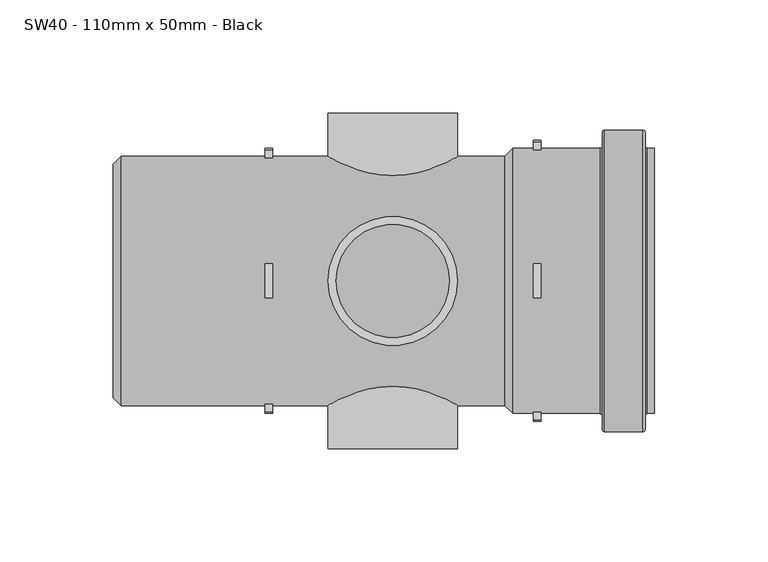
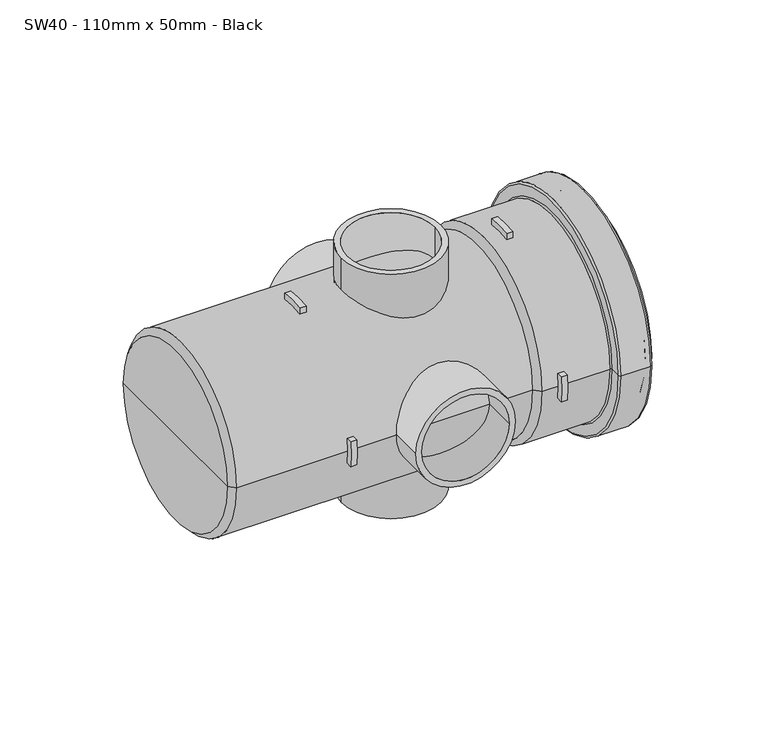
"""IFC4 building model written with IfcOpenShell, lengths in millimetres: pipe fitting geometry, MarleyPlumbingAndDrainage_PipeFitting_BossPipe_SW40 : SW40 - 110mm x 50mm - Black."""

from ifc_helpers import new_model, si_unit, point, frame, frame_2d, origin, origin_2d, place, context, project, spatial, polyline, circle_curve, ellipse_curve, trimmed, segment, composite_curve, outline, extrude, source, transform, mapped, element, save
from ifc_brep_helpers import plane_surface, cylinder_surface, revolved_surface, advanced_brep


def sw40_110mm_x_50mm_black_f85930d2(model_context):
    return source(origin(), model_context, "Body", "SolidModel", [
        extrude(outline(composite_curve([segment(polyline([(-7.5, 54.4862368), (-7.5, 58.0172388)]), True, "CONTINUOUS"), segment(trimmed(circle_curve(origin_2d(), 58.5), [point((-7.5, 58.0172388))], [point((7.5, 58.0172388))], False, "CARTESIAN"), True, "CONTINUOUS"), segment(polyline([(7.5, 58.0172388), (7.5, 54.4862368)]), True, "CONTINUOUS"), segment(trimmed(circle_curve(origin_2d(), 55.0), [point((7.5, 54.4862368))], [point((-7.5, 54.4862368))], True, "CARTESIAN"), True, "CONTINUOUS")], self_intersect=False)), frame((-54.0667881, 0.0, 0.0), z_axis=(1.0, 0.0, 0.0), x_axis=(0.0, 1.0, 0.0)), (0.0, 0.0, 1.0), 3.5),
        extrude(outline(composite_curve([segment(polyline([(54.4862368, 7.5), (58.0172388, 7.5)]), True, "CONTINUOUS"), segment(trimmed(circle_curve(origin_2d(), 58.5), [point((58.0172388, 7.5))], [point((58.0172388, -7.5))], False, "CARTESIAN"), True, "CONTINUOUS"), segment(polyline([(58.0172388, -7.5), (54.4862368, -7.5)]), True, "CONTINUOUS"), segment(trimmed(circle_curve(origin_2d(), 55.0), [point((54.4862368, -7.5))], [point((54.4862368, 7.5))], True, "CARTESIAN"), True, "CONTINUOUS")], self_intersect=False)), frame((-54.0667881, 0.0, 0.0), z_axis=(1.0, 0.0, 0.0), x_axis=(0.0, 1.0, 0.0)), (0.0, 0.0, 1.0), 3.5),
        extrude(outline(composite_curve([segment(polyline([(-58.0172388, 7.5), (-54.4862368, 7.5)]), True, "CONTINUOUS"), segment(trimmed(circle_curve(origin_2d(), 55.0), [point((-54.4862368, 7.5))], [point((-54.4862368, -7.5))], True, "CARTESIAN"), True, "CONTINUOUS"), segment(polyline([(-54.4862368, -7.5), (-58.0172388, -7.5)]), True, "CONTINUOUS"), segment(trimmed(circle_curve(origin_2d(), 58.5), [point((-58.0172388, -7.5))], [point((-58.0172388, 7.5))], False, "CARTESIAN"), True, "CONTINUOUS")], self_intersect=False)), frame((-54.0667881, 0.0, 0.0), z_axis=(1.0, 0.0, 0.0), x_axis=(0.0, 1.0, 0.0)), (0.0, 0.0, 1.0), 3.5),
        extrude(outline(composite_curve([segment(polyline([(-7.5, -58.0172388), (-7.5, -54.4862368)]), True, "CONTINUOUS"), segment(trimmed(circle_curve(origin_2d(), 55.0), [point((-7.5, -54.4862368))], [point((7.5, -54.4862368))], True, "CARTESIAN"), True, "CONTINUOUS"), segment(polyline([(7.5, -54.4862368), (7.5, -58.0172388)]), True, "CONTINUOUS"), segment(trimmed(circle_curve(origin_2d(), 58.5), [point((7.5, -58.0172388))], [point((-7.5, -58.0172388))], False, "CARTESIAN"), True, "CONTINUOUS")], self_intersect=False)), frame((-54.0667881, 0.0, 0.0), z_axis=(1.0, 0.0, 0.0), x_axis=(0.0, 1.0, 0.0)), (0.0, 0.0, 1.0), 3.5),
        extrude(outline(composite_curve([segment(polyline([(-58.0172388, -7.5), (-61.5446992, -7.5)]), True, "CONTINUOUS"), segment(trimmed(circle_curve(origin_2d(), 62.0), [point((-61.5446992, -7.5))], [point((-61.5446992, 7.5))], False, "CARTESIAN"), True, "CONTINUOUS"), segment(polyline([(-61.5446992, 7.5), (-58.0172388, 7.5)]), True, "CONTINUOUS"), segment(trimmed(circle_curve(origin_2d(), 58.5), [point((-58.0172388, 7.5))], [point((-58.0172388, -7.5))], True, "CARTESIAN"), True, "CONTINUOUS")], self_intersect=False)), frame((64.4332119, 0.0, 0.0), z_axis=(1.0, 0.0, 0.0), x_axis=(0.0, 1.0, 0.0)), (0.0, 0.0, 1.0), 3.5),
        extrude(outline(composite_curve([segment(trimmed(circle_curve(origin_2d(), 58.5), [point((7.5, 58.0172388))], [point((-7.5, 58.0172388))], True, "CARTESIAN"), True, "CONTINUOUS"), segment(polyline([(-7.5, 58.0172388), (-7.5, 61.5446992)]), True, "CONTINUOUS"), segment(trimmed(circle_curve(origin_2d(), 62.0), [point((-7.5, 61.5446992))], [point((7.5, 61.5446992))], False, "CARTESIAN"), True, "CONTINUOUS"), segment(polyline([(7.5, 61.5446992), (7.5, 58.0172388)]), True, "CONTINUOUS")], self_intersect=False)), frame((64.4332119, 0.0, 0.0), z_axis=(1.0, 0.0, 0.0), x_axis=(0.0, 1.0, 0.0)), (0.0, 0.0, 1.0), 3.5),
        extrude(outline(composite_curve([segment(polyline([(58.0172388, 7.5), (61.5446992, 7.5)]), True, "CONTINUOUS"), segment(trimmed(circle_curve(origin_2d(), 62.0), [point((61.5446992, 7.5))], [point((61.5446992, -7.5))], False, "CARTESIAN"), True, "CONTINUOUS"), segment(polyline([(61.5446992, -7.5), (58.0172388, -7.5)]), True, "CONTINUOUS"), segment(trimmed(circle_curve(origin_2d(), 58.5), [point((58.0172388, -7.5))], [point((58.0172388, 7.5))], True, "CARTESIAN"), True, "CONTINUOUS")], self_intersect=False)), frame((64.4332119, 0.0, 0.0), z_axis=(1.0, 0.0, 0.0), x_axis=(0.0, 1.0, 0.0)), (0.0, 0.0, 1.0), 3.5),
        extrude(outline(composite_curve([segment(polyline([(-7.5, -61.5446992), (-7.5, -58.0172388)]), True, "CONTINUOUS"), segment(trimmed(circle_curve(origin_2d(), 58.5), [point((-7.5, -58.0172388))], [point((7.5, -58.0172388))], True, "CARTESIAN"), True, "CONTINUOUS"), segment(polyline([(7.5, -58.0172388), (7.5, -61.5446992)]), True, "CONTINUOUS"), segment(trimmed(circle_curve(origin_2d(), 62.0), [point((7.5, -61.5446992))], [point((-7.5, -61.5446992))], False, "CARTESIAN"), True, "CONTINUOUS")], self_intersect=False)), frame((64.4332119, 0.0, 0.0), z_axis=(1.0, 0.0, 0.0), x_axis=(0.0, 1.0, 0.0)), (0.0, 0.0, 1.0), 3.5),
        extrude(outline(composite_curve([segment(trimmed(circle_curve(frame_2d((0.0, 2.4332119)), 28.5), [point((0.0, -26.0667881))], [point((0.0, 30.9332119))], False, "CARTESIAN"), True, "CONTINUOUS"), segment(trimmed(circle_curve(frame_2d((0.0, 2.4332119)), 28.5), [point((0.0, 30.9332119))], [point((0.0, -26.0667881))], False, "CARTESIAN"), True, "CONTINUOUS")], self_intersect=False), holes=[composite_curve([segment(trimmed(circle_curve(frame_2d((0.0, 2.4332119)), 25.0), [point((0.0, -22.5667881))], [point((0.0, 27.4332119))], True, "CARTESIAN"), True, "CONTINUOUS"), segment(trimmed(circle_curve(frame_2d((0.0, 2.4332119)), 25.0), [point((0.0, 27.4332119))], [point((0.0, -22.5667881))], True, "CARTESIAN"), True, "CONTINUOUS")], self_intersect=False)]), frame((0.0, -74.0, 0.0), z_axis=(0.0, 1.0, 0.0), x_axis=(0.0, 0.0, 1.0)), (0.0, 0.0, 1.0), 148.0),
        extrude(outline(composite_curve([segment(trimmed(circle_curve(frame_2d((2.4332119, 0.0)), 28.5), [point((-26.0667881, 0.0))], [point((30.9332119, 0.0))], False, "CARTESIAN"), True, "CONTINUOUS"), segment(trimmed(circle_curve(frame_2d((2.4332119, 0.0)), 28.5), [point((30.9332119, 0.0))], [point((-26.0667881, 0.0))], False, "CARTESIAN"), True, "CONTINUOUS")], self_intersect=False), holes=[composite_curve([segment(trimmed(circle_curve(frame_2d((2.4332119, 0.0)), 25.0), [point((-22.5667881, 0.0))], [point((27.4332119, 0.0))], True, "CARTESIAN"), True, "CONTINUOUS"), segment(trimmed(circle_curve(frame_2d((2.4332119, 0.0)), 25.0), [point((27.4332119, 0.0))], [point((-22.5667881, 0.0))], True, "CARTESIAN"), True, "CONTINUOUS")], self_intersect=False)]), frame((0.0, 0.0, -74.0), z_axis=(0.0, 0.0, 1.0), x_axis=(1.0, 0.0, 0.0)), (0.0, 0.0, 1.0), 148.0),
        advanced_brep(
        [(55.4332119, -55.0, 0.0), (55.4332119, 55.0, 0.0), (55.4332119, 0.0, 0.0), (117.9332119, -55.0, 0.0), (117.9332119, 55.0, 0.0), (117.9332119, -58.5, 0.0), (117.9332119, 58.5, 0.0), (55.4332119, -58.5, 0.0), (55.4332119, 58.5, 0.0), (93.9332119, 58.5, 0.0), (93.9332119, -58.5, 0.0), (51.9332119, -55.0, 0.0), (51.9332119, 55.0, 0.0), (-117.5667881, -55.0, 0.0), (-117.5667881, 55.0, 0.0), (-121.0667881, 0.0, 0.0), (-121.0667881, 51.5, 0.0), (-121.0667881, -51.5, 0.0), (114.9332119, -58.5, 0.0), (114.9332119, 58.5, 0.0), (113.9332119, -59.5, 0.0), (113.9332119, 59.5, 0.0), (113.9332119, -65.5, 0.0), (113.9332119, 65.5, 0.0), (112.9332119, -66.5, 0.0), (112.9332119, 66.5, 0.0), (95.9332119, -66.5, 0.0), (95.9332119, 66.5, 0.0), (94.9332119, -65.5, 0.0), (94.9332119, 65.5, 0.0), (94.9332119, -59.5, 0.0), (94.9332119, 59.5, 0.0)],
        [
            (0, 1, circle_curve(frame((55.4332119, 0.0, 0.0), z_axis=(1.0, 0.0, 0.0), x_axis=(0.0, 1.0, 0.0)), 55.0)),
            (1, 2),
            (2, 0),
            (1, 0, circle_curve(frame((55.4332119, 0.0, 0.0), z_axis=(1.0, 0.0, 0.0), x_axis=(0.0, 1.0, 0.0)), 55.0)),
            (3, 4, circle_curve(frame((117.9332119, 0.0, 0.0), z_axis=(1.0, 0.0, 0.0), x_axis=(0.0, 1.0, 0.0)), 55.0)),
            (4, 1),
            (0, 3),
            (4, 3, circle_curve(frame((117.9332119, 0.0, 0.0), z_axis=(1.0, 0.0, 0.0), x_axis=(0.0, 1.0, 0.0)), 55.0)),
            (5, 6, circle_curve(frame((117.9332119, 0.0, 0.0), z_axis=(1.0, 0.0, 0.0), x_axis=(0.0, 1.0, 0.0)), 58.5)),
            (6, 4),
            (3, 5),
            (6, 5, circle_curve(frame((117.9332119, 0.0, 0.0), z_axis=(1.0, 0.0, 0.0), x_axis=(0.0, 1.0, 0.0)), 58.5)),
            (7, 8, circle_curve(frame((55.4332119, 0.0, 0.0), z_axis=(1.0, 0.0, 0.0), x_axis=(0.0, 1.0, 0.0)), 58.5)),
            (8, 9),
            (9, 10, circle_curve(frame((93.9332119, 0.0, 0.0), z_axis=(-1.0, 0.0, 0.0), x_axis=(0.0, 1.0, 0.0)), 58.5)),
            (10, 7),
            (8, 7, circle_curve(frame((55.4332119, 0.0, 0.0), z_axis=(1.0, 0.0, 0.0), x_axis=(0.0, 1.0, 0.0)), 58.5)),
            (10, 9, circle_curve(frame((93.9332119, 0.0, 0.0), z_axis=(-1.0, 0.0, 0.0), x_axis=(0.0, 1.0, 0.0)), 58.5)),
            (11, 12, circle_curve(frame((51.9332119, 0.0, 0.0), z_axis=(1.0, 0.0, 0.0), x_axis=(0.0, 1.0, 0.0)), 55.0)),
            (12, 8),
            (7, 11),
            (12, 11, circle_curve(frame((51.9332119, 0.0, 0.0), z_axis=(1.0, 0.0, 0.0), x_axis=(0.0, 1.0, 0.0)), 55.0)),
            (13, 14, circle_curve(frame((-117.5667881, 0.0, 0.0), z_axis=(1.0, 0.0, 0.0), x_axis=(0.0, 1.0, 0.0)), 55.0)),
            (14, 12),
            (11, 13),
            (14, 13, circle_curve(frame((-117.5667881, 0.0, 0.0), z_axis=(1.0, 0.0, 0.0), x_axis=(0.0, 1.0, 0.0)), 55.0)),
            (15, 16),
            (16, 17, circle_curve(frame((-121.0667881, 0.0, 0.0), z_axis=(-1.0, 0.0, 0.0), x_axis=(0.0, 1.0, 0.0)), 51.5)),
            (17, 15),
            (17, 16, circle_curve(frame((-121.0667881, 0.0, 0.0), z_axis=(-1.0, 0.0, 0.0), x_axis=(0.0, 1.0, 0.0)), 51.5)),
            (18, 19, circle_curve(frame((114.9332119, 0.0, 0.0), z_axis=(1.0, 0.0, 0.0), x_axis=(0.0, 1.0, 0.0)), 58.5)),
            (19, 6),
            (5, 18),
            (19, 18, circle_curve(frame((114.9332119, 0.0, 0.0), z_axis=(1.0, 0.0, 0.0), x_axis=(0.0, 1.0, 0.0)), 58.5)),
            (20, 21, circle_curve(frame((113.9332119, 0.0, 0.0), z_axis=(1.0, 0.0, 0.0), x_axis=(0.0, 1.0, 0.0)), 59.5)),
            (21, 19, circle_curve(frame((114.9332119, 59.5, 0.0), z_axis=(0.0, 0.0, 1.0), x_axis=(1.0, 0.0, 0.0)), 1.0)),
            (18, 20, circle_curve(frame((114.9332119, -59.5, 0.0), z_axis=(0.0, 0.0, 1.0), x_axis=(1.0, 0.0, 0.0)), 1.0)),
            (21, 20, circle_curve(frame((113.9332119, 0.0, 0.0), z_axis=(1.0, 0.0, 0.0), x_axis=(0.0, 1.0, 0.0)), 59.5)),
            (22, 23, circle_curve(frame((113.9332119, 0.0, 0.0), z_axis=(1.0, 0.0, 0.0), x_axis=(0.0, 1.0, 0.0)), 65.5)),
            (23, 21),
            (20, 22),
            (23, 22, circle_curve(frame((113.9332119, 0.0, 0.0), z_axis=(1.0, 0.0, 0.0), x_axis=(0.0, 1.0, 0.0)), 65.5)),
            (24, 25, circle_curve(frame((112.9332119, 0.0, 0.0), z_axis=(1.0, 0.0, 0.0), x_axis=(0.0, 1.0, 0.0)), 66.5)),
            (25, 23, circle_curve(frame((112.9332119, 65.5, 0.0), z_axis=(0.0, 0.0, -1.0), x_axis=(1.0, 0.0, 0.0)), 1.0)),
            (22, 24, circle_curve(frame((112.9332119, -65.5, 0.0), z_axis=(0.0, 0.0, -1.0), x_axis=(1.0, 0.0, 0.0)), 1.0)),
            (25, 24, circle_curve(frame((112.9332119, 0.0, 0.0), z_axis=(1.0, 0.0, 0.0), x_axis=(0.0, 1.0, 0.0)), 66.5)),
            (26, 27, circle_curve(frame((95.9332119, 0.0, 0.0), z_axis=(1.0, 0.0, 0.0), x_axis=(0.0, 1.0, 0.0)), 66.5)),
            (27, 25),
            (24, 26),
            (27, 26, circle_curve(frame((95.9332119, 0.0, 0.0), z_axis=(1.0, 0.0, 0.0), x_axis=(0.0, 1.0, 0.0)), 66.5)),
            (28, 29, circle_curve(frame((94.9332119, 0.0, 0.0), z_axis=(1.0, 0.0, 0.0), x_axis=(0.0, 1.0, 0.0)), 65.5)),
            (29, 27, circle_curve(frame((95.9332119, 65.5, 0.0), z_axis=(0.0, 0.0, -1.0), x_axis=(1.0, 0.0, 0.0)), 1.0)),
            (26, 28, circle_curve(frame((95.9332119, -65.5, 0.0), z_axis=(0.0, 0.0, -1.0), x_axis=(1.0, 0.0, 0.0)), 1.0)),
            (29, 28, circle_curve(frame((94.9332119, 0.0, 0.0), z_axis=(1.0, 0.0, 0.0), x_axis=(0.0, 1.0, 0.0)), 65.5)),
            (30, 31, circle_curve(frame((94.9332119, 0.0, 0.0), z_axis=(1.0, 0.0, 0.0), x_axis=(0.0, 1.0, 0.0)), 59.5)),
            (31, 29),
            (28, 30),
            (31, 30, circle_curve(frame((94.9332119, 0.0, 0.0), z_axis=(1.0, 0.0, 0.0), x_axis=(0.0, 1.0, 0.0)), 59.5)),
            (9, 31, circle_curve(frame((93.9332119, 59.5, 0.0), z_axis=(0.0, 0.0, 1.0), x_axis=(1.0, 0.0, 0.0)), 1.0)),
            (30, 10, circle_curve(frame((93.9332119, -59.5, 0.0), z_axis=(0.0, 0.0, 1.0), x_axis=(1.0, 0.0, 0.0)), 1.0)),
            (16, 14),
            (13, 17),
        ],
        [
            plane_surface(frame((55.4332119, 0.0, 0.0), z_axis=(1.0, 0.0, 0.0), x_axis=(0.0, 1.0, 0.0))),
            revolved_surface(polyline([(55.43321190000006, 55.0, 0.0), (117.93321190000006, 55.0, 0.0)]), (1983.5, 0.0, 0.0), (-1.0, 0.0, 0.0)),
            plane_surface(frame((117.9332119, 0.0, 0.0), z_axis=(1.0, 0.0, 0.0), x_axis=(0.0, 1.0, 0.0))),
            cylinder_surface(frame((1983.5, 0.0, 0.0), z_axis=(-1.0, 0.0, 0.0), x_axis=(0.0, 1.0, 0.0)), 58.5),
            revolved_surface(polyline([(55.4332119, 58.5, 0.0), (51.9332119, 55.0, 0.0)]), (1983.5, 0.0, 0.0), (-1.0, 0.0, 0.0)),
            cylinder_surface(frame((1983.5, 0.0, 0.0), z_axis=(-1.0, 0.0, 0.0), x_axis=(0.0, 1.0, 0.0)), 55.0),
            plane_surface(frame((-121.0667881, 0.0, 0.0), z_axis=(-1.0, 0.0, 0.0), x_axis=(0.0, 1.0, 0.0))),
            revolved_surface(trimmed(ellipse_curve(frame((114.9332119, 59.5, 0.0), z_axis=(0.0, 0.0, -1.0), x_axis=(1.0, 0.0, 0.0)), 1.0, 1.0), [point((114.9332119, 58.5, 0.0))], [point((113.9332119, 59.5, 0.0))], True, "CARTESIAN"), (1983.5, 0.0, 0.0), (-1.0, 0.0, 0.0)),
            plane_surface(frame((113.9332119, 0.0, 0.0), z_axis=(1.0, 0.0, 0.0), x_axis=(0.0, 1.0, 0.0))),
            revolved_surface(trimmed(ellipse_curve(frame((112.9332119, 65.5, 0.0), z_axis=(0.0, 0.0, 1.0), x_axis=(1.0, 0.0, 0.0)), 1.0, 1.0), [point((113.9332119, 65.5, 0.0))], [point((112.9332119, 66.5, 0.0))], True, "CARTESIAN"), (1983.5, 0.0, 0.0), (-1.0, 0.0, 0.0)),
            cylinder_surface(frame((1983.5, 0.0, 0.0), z_axis=(-1.0, 0.0, 0.0), x_axis=(0.0, 1.0, 0.0)), 66.5),
            revolved_surface(trimmed(ellipse_curve(frame((95.9332119, 65.5, 0.0), z_axis=(0.0, 0.0, 1.0), x_axis=(1.0, 0.0, 0.0)), 1.0, 1.0), [point((95.9332119, 66.5, 0.0))], [point((94.9332119, 65.5, 0.0))], True, "CARTESIAN"), (1983.5, 0.0, 0.0), (-1.0, 0.0, 0.0)),
            plane_surface(frame((94.9332119, 0.0, 0.0), z_axis=(-1.0, 0.0, 0.0), x_axis=(0.0, 1.0, 0.0))),
            revolved_surface(trimmed(ellipse_curve(frame((93.9332119, 59.5, 0.0), z_axis=(0.0, 0.0, -1.0), x_axis=(1.0, 0.0, 0.0)), 1.0, 1.0), [point((94.9332119, 59.5, 0.0))], [point((93.9332119, 58.5, 0.0))], True, "CARTESIAN"), (1983.5, 0.0, 0.0), (-1.0, 0.0, 0.0)),
            revolved_surface(polyline([(-117.5667881, 55.0, 0.0), (-121.0667881, 51.5, 0.0)]), (1983.5, 0.0, 0.0), (-1.0, 0.0, 0.0)),
        ],
        [
            (0, [[1, 2, 3]]),
            (0, [[4, -3, -2]]),
            (1, [[5, 6, -1, 7]]),
            (1, [[8, -7, -4, -6]]),
            (2, [[9, 10, -5, 11]]),
            (2, [[12, -11, -8, -10]]),
            (3, [[13, 14, 15, 16]]),
            (3, [[17, -16, 18, -14]]),
            (4, [[19, 20, -13, 21]]),
            (4, [[22, -21, -17, -20]]),
            (5, [[23, 24, -19, 25]]),
            (5, [[26, -25, -22, -24]]),
            (6, [[27, 28, 29]]),
            (6, [[-29, 30, -27]]),
            (3, [[31, 32, -9, 33]]),
            (3, [[34, -33, -12, -32]]),
            (7, [[35, 36, -31, 37]]),
            (7, [[38, -37, -34, -36]]),
            (8, [[39, 40, -35, 41]]),
            (8, [[42, -41, -38, -40]]),
            (9, [[43, 44, -39, 45]]),
            (9, [[46, -45, -42, -44]]),
            (10, [[47, 48, -43, 49]]),
            (10, [[50, -49, -46, -48]]),
            (11, [[51, 52, -47, 53]]),
            (11, [[54, -53, -50, -52]]),
            (12, [[55, 56, -51, 57]]),
            (12, [[58, -57, -54, -56]]),
            (13, [[-15, 59, -55, 60]]),
            (13, [[-18, -60, -58, -59]]),
            (14, [[-28, 61, -23, 62]]),
            (14, [[-30, -62, -26, -61]]),
        ],
    ),
    ])


if __name__ == "__main__":
    model = new_model("IFC4")
    model_context = context("Model", 3, world=origin())
    ifc_project = project(units=[si_unit("LENGTHUNIT", "METRE", prefix="MILLI")], contexts=[model_context])
    site = spatial("IfcSite", under=ifc_project)
    building = spatial("IfcBuilding", under=site)
    placement = place(None, origin())
    sw40_110mm_x_50mm_black_shape = sw40_110mm_x_50mm_black_f85930d2(model_context)
    element("IfcPipeFitting", 1, ObjectType="MarleyPlumbingAndDrainage_PipeFitting_BossPipe_SW40 : SW40 - 110mm x 50mm - Black", at=placement, inside=building, context=model_context, shape_type="MappedRepresentation", body=[
        mapped(sw40_110mm_x_50mm_black_shape, transform((0.0, 0.0, 0.0), x_axis=(1.0, 0.0, 0.0), y_axis=(0.0, 1.0, 0.0), z_axis=(0.0, 0.0, 1.0))),
    ])
    save(model, "model.ifc")
